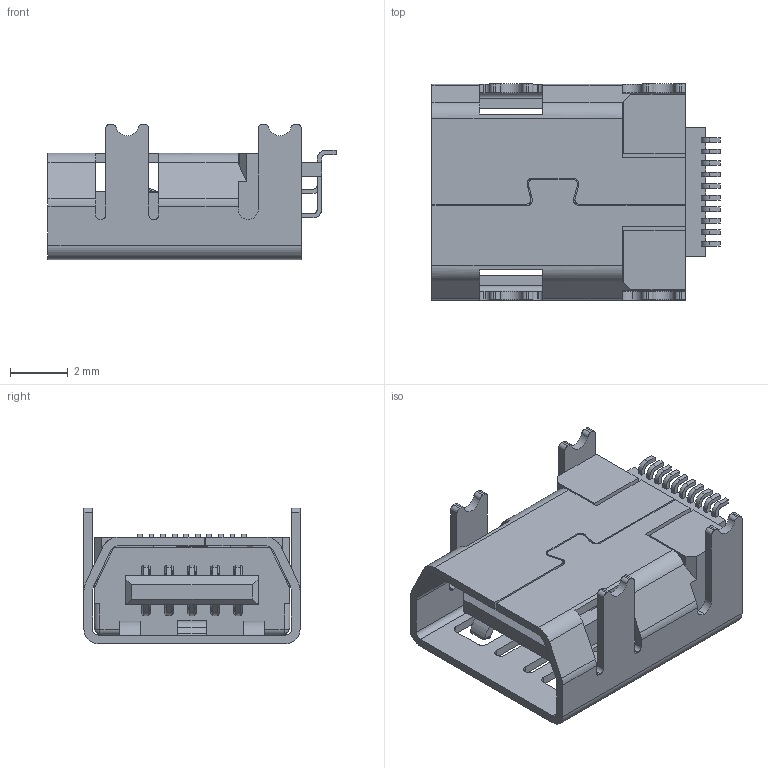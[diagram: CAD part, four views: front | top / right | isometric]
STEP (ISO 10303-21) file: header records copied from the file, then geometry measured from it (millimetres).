
FILE_DESCRIPTION(('CATIA V5 STEP Exchange'),'2;1');
FILE_NAME('F:\REF\特图电子-单阳光\2D\03-Micro&Mini Series\Mini usb套用新图框\Mini usb_3D\3D-mini-usb-10p_1031001GR005.stp','2021-05-28T09:21:07+00:00',('none'),('none'),'CATIA Version 5 Release 17 (IN-10)','CATIA V5 STEP AP203','none');
FILE_SCHEMA(('CONFIG_CONTROL_DESIGN'));
Length unit declared in the file: millimetre
Products named in the file (1): MINI-USB_10P_1
Bounding box: 10 x 7.5 x 4.7 mm (x, y, z)
Volume: 137.8 mm3; surface area: 500.9 mm2
Topology: 1 solids, 1 shells, 579 faces, 1657 edges, 1056 vertices
Faces by surface type: plane 376, cylinder 157, bspline 44, sphere 2
Entity records: 20484 total; most frequent: CARTESIAN_POINT 5988, ORIENTED_EDGE 3314, DIRECTION 2453, EDGE_CURVE 1657, VECTOR 1245, LINE 1245, VERTEX_POINT 1056, AXIS2_PLACEMENT_3D 698
